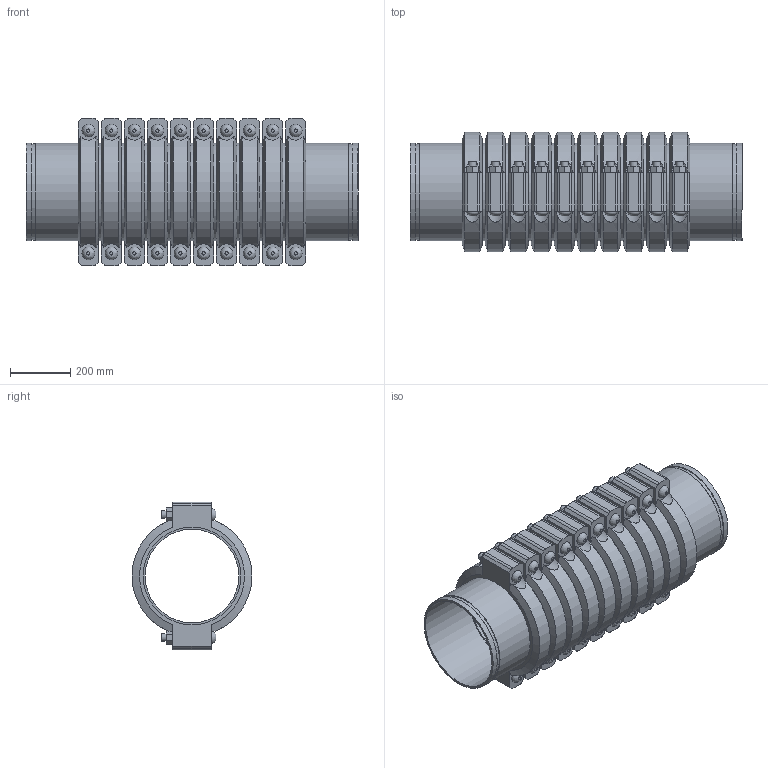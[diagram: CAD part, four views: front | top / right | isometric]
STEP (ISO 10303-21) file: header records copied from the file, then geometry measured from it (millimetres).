
FILE_DESCRIPTION(/* description */ ('VIC EXPANSION JOINT 10 COUPLINGS EXPANDED STYLE 155 (OGS)','CAx-IF Rec.Pracs.---Representation and Presentation of Product Manufacturing Information (PMI)---4.0---2014-10-13'),/* implementation_level */ '2;1');
FILE_NAME(/* name */ 'C:\Users\kkamble\AppData\Roaming\Autodesk\ApplicationPlugins\Victaulic.Temp\A992\Victaulic_IPS_Expansion Joint_Expanded_10 Couplings_Style 155 (OGS)_12 (300).stp',/* time_stamp */ '2021-06-26T23:50:26+02:00',/* author */ ('kkamble'),/* organization */ ('Victaulic'),/* preprocessor_version */ 'ST-DEVELOPER v17.2',/* originating_system */ 'Autodesk Inventor 2019',/* authorisation */ '');
FILE_SCHEMA (('AP242_MANAGED_MODEL_BASED_3D_ENGINEERING_MIM_LF { 1 0 10303 442 1 1 4 }'));
Length unit declared in the file: inch
Products named in the file (4): 155-12.0; Nipple-12.0; Nipple-12.0_1; 077-12.0
Assembly tree (21 placements, depth 2):
  155-12.0
    Nipple-12.0  x2
    Nipple-12.0_1  x9
    077-12.0  x10
Bounding box: 1098.55 x 397 x 488.95 mm (x, y, z)
Volume: 40858045.9 mm3; surface area: 5594746.3 mm2
Topology: 21 solids, 41 shells, 742 faces, 1780 edges, 1244 vertices
Faces by surface type: plane 426, cylinder 256, cone 40, bspline 20
Full cylindrical faces by diameter (mm): 25.4 x40, 27.432 x20, 309.677 x11, 314.96 x10, 318.287 x22, 323.85 x53
Entity records: 3137 total; most frequent: CARTESIAN_POINT 669, DIRECTION 497, ORIENTED_EDGE 410, EDGE_CURVE 205, AXIS2_PLACEMENT_3D 204, VERTEX_POINT 146, EDGE_LOOP 111, CIRCLE 96
